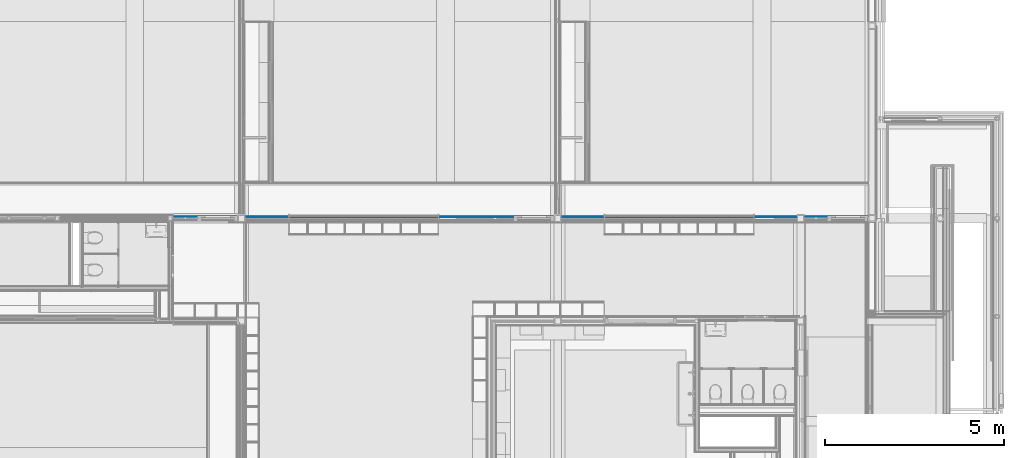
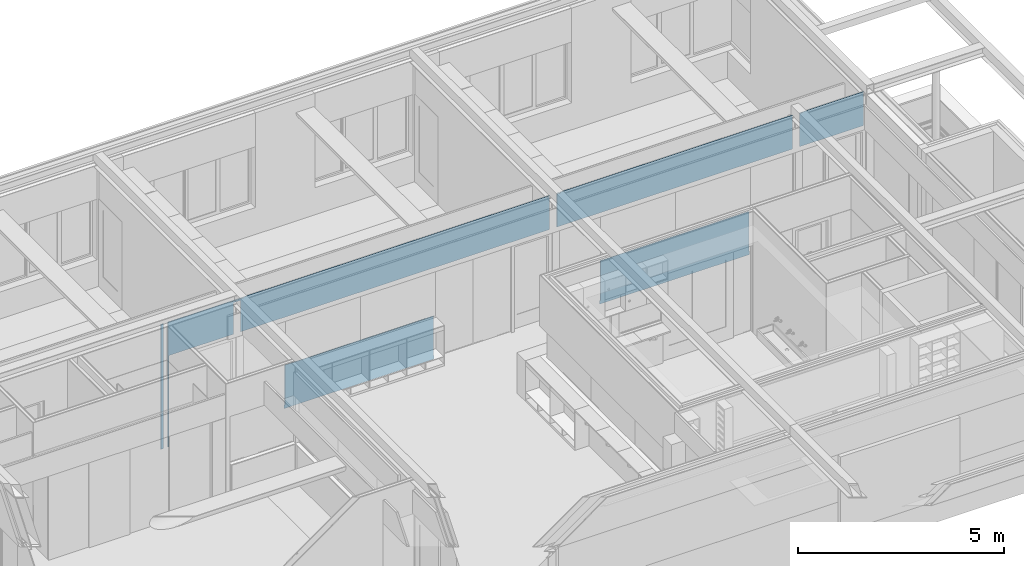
# One storey, part 48 of 137: 1 building element part, 14 openings, 1 element without a shape of its own.
"""IFC2X3 building model written with IfcOpenShell, lengths in millimetres."""

from ifc_helpers import new_model, entity, si_unit, converted_unit, derived_unit, money_unit, direction, frame, origin_with_axes, place, context, subcontext, project, spatial, faceted_brep, material, type_object, element, aggregate, save


model = new_model("IFC2X3")

# Units and contexts
model_context = context("Model", 3, precision=0.01, world=origin_with_axes(), true_north=direction((0.0, 1.0)))
body_context = subcontext(model_context, "Body", "Model", "MODEL_VIEW")
ifc_project = project(units=[si_unit("LENGTHUNIT", "METRE", prefix="MILLI"), si_unit("AREAUNIT", "SQUARE_METRE"), si_unit("VOLUMEUNIT", "CUBIC_METRE"), converted_unit("PLANEANGLEUNIT", "DEGREE", entity("IfcPlaneAngleMeasure", 0.0174532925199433), si_unit("PLANEANGLEUNIT", "RADIAN"), dimensions=[0, 0, 0, 0, 0, 0, 0]), money_unit("EUR"), converted_unit("TIMEUNIT", "Year", entity("IfcTimeMeasure", 31556926.0), si_unit("TIMEUNIT", "SECOND"), dimensions=[0, 0, 1, 0, 0, 0, 0]), si_unit("MASSUNIT", "GRAM", prefix="KILO"), si_unit("THERMODYNAMICTEMPERATUREUNIT", "DEGREE_CELSIUS"), si_unit("LUMINOUSINTENSITYUNIT", "LUMEN"), si_unit("ENERGYUNIT", "JOULE", prefix="MEGA"), derived_unit("THERMALCONDUCTANCEUNIT", [(si_unit("POWERUNIT", "WATT"), 1), (si_unit("LENGTHUNIT", "METRE"), -1), (si_unit("THERMODYNAMICTEMPERATUREUNIT", "KELVIN"), -1)]), derived_unit("SPECIFICHEATCAPACITYUNIT", [(si_unit("ENERGYUNIT", "JOULE"), 1), (si_unit("MASSUNIT", "GRAM", prefix="KILO"), -1), (si_unit("THERMODYNAMICTEMPERATUREUNIT", "KELVIN"), -1)]), derived_unit("MASSDENSITYUNIT", [(si_unit("MASSUNIT", "GRAM", prefix="KILO"), 1), (si_unit("VOLUMEUNIT", "CUBIC_METRE"), -1)])], contexts=[model_context])

# Site, building, storey
site_placement = place(None, origin_with_axes())
site = spatial("IfcSite", under=ifc_project, at=site_placement, Name="Site", CompositionType="ELEMENT")
building_placement = place(site_placement, origin_with_axes())
building = spatial("IfcBuilding", under=site, at=building_placement, Name="Naam gebouw", CompositionType="ELEMENT")
storey_placement = place(building_placement, frame((0.0, 0.0, 3960.0), z_axis=(0.0, 0.0, 1.0), x_axis=(1.0, 0.0, 0.0)))
storey = spatial("IfcBuildingStorey", under=building, at=storey_placement, Name="1e verdieping", CompositionType="ELEMENT", Elevation=3960.0)

# Proxy, openings, building element part
building_element_proxy_type = type_object("IfcBuildingElementProxyType", Name="22 Metal stud 125 gips 125", PredefinedType="NOTDEFINED")
proxy_placement = place(storey_placement, frame((6940.0, 22324.97621406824, -100.0000000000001), z_axis=(0.0, 0.0, 1.0), x_axis=(1.0, 0.0, 0.0)))
proxy = element("IfcBuildingElementProxy", 1, at=proxy_placement, inside=storey, type_object=building_element_proxy_type, Name="_Wand-x")
opening_1_placement = place(proxy_placement, frame((16859.99903999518, 0.0, 100.0000000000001), z_axis=(0.0, 0.0, 1.0), x_axis=(1.0, 0.0, 0.0)))
element("IfcOpeningElement", 2, at=opening_1_placement, cuts=proxy, Name="_B.01", context=body_context, shape_type="Brep", body=[
    faceted_brep([(599.9999999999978, -12.49999999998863, -100.0000000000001), (599.9999999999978, -12.49999999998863, 2600.0), (599.9999999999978, -63.49999999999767, 2600.0), (599.9999999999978, -63.49999999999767, -100.0000000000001), (599.9999999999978, 63.50000000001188, -100.0000000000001), (599.9999999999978, 63.50000000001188, 2600.0), (-599.9999999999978, -12.49999999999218, 2600.0), (-599.9999999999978, -63.50000000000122, 2600.0), (-599.9999999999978, 63.50000000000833, 2600.0), (-599.9999999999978, -63.50000000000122, -100.0000000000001), (-599.9999999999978, -12.49999999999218, -100.0000000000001), (-599.9999999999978, 63.50000000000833, -100.0000000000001)], [[[0, 1, 2, 3]], [[1, 0, 4, 5]], [[6, 7, 2, 1, 5, 8]], [[7, 9, 3, 2]], [[0, 3, 9, 10, 11, 4]], [[5, 4, 11, 8]], [[6, 10, 9, 7]], [[10, 6, 8, 11]]]),
])
opening_2_placement = place(proxy_placement, frame((11459.99903999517, 0.0, 100.0000000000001), z_axis=(0.0, 0.0, 1.0), x_axis=(1.0, 0.0, 0.0)))
element("IfcOpeningElement", 3, at=opening_2_placement, cuts=proxy, Name="_B.01", context=body_context, shape_type="Brep", body=[
    faceted_brep([(600.0000000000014, -12.49999999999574, -100.0000000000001), (600.0000000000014, -12.49999999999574, 2600.0), (600.0000000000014, -63.50000000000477, 2600.0), (600.0000000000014, -63.50000000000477, -100.0000000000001), (600.0000000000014, 63.50000000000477, -100.0000000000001), (600.0000000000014, 63.50000000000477, 2600.0), (-600.0000000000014, -12.49999999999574, 2600.0), (-600.0000000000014, -63.50000000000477, 2600.0), (-600.0000000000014, 63.50000000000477, 2600.0), (-600.0000000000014, -63.50000000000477, -100.0000000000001), (-600.0000000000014, -12.49999999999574, -100.0000000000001), (-600.0000000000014, 63.50000000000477, -100.0000000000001)], [[[0, 1, 2, 3]], [[1, 0, 4, 5]], [[6, 7, 2, 1, 5, 8]], [[7, 9, 3, 2]], [[0, 3, 9, 10, 11, 4]], [[5, 4, 11, 8]], [[6, 10, 9, 7]], [[10, 6, 8, 11]]]),
])
opening_3_placement = place(proxy_placement, frame((7954.999824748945, 0.0, 100.0000000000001), z_axis=(0.0, 0.0, 1.0), x_axis=(1.0, 0.0, 0.0)))
element("IfcOpeningElement", 4, at=opening_3_placement, cuts=proxy, Name="_B.06", context=body_context, shape_type="Brep", body=[
    faceted_brep([(524.9998247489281, -12.49999999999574, -100.0000000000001), (524.9998247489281, -12.49999999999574, 2600.0), (524.9998247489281, -63.50000000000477, 2600.0), (524.9998247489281, -63.50000000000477, -100.0000000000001), (524.9998247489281, 63.50000000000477, -100.0000000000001), (524.9998247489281, 63.50000000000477, 2600.0), (-524.9998247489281, -12.49999999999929, 2600.0), (-524.9998247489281, -63.50000000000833, 2600.0), (-524.9998247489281, 63.50000000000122, 2600.0), (-524.9998247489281, -63.50000000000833, -100.0000000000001), (-524.9998247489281, -12.49999999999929, -100.0000000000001), (-524.9998247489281, 63.50000000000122, -100.0000000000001)], [[[0, 1, 2, 3]], [[1, 0, 4, 5]], [[6, 7, 2, 1, 5, 8]], [[7, 9, 3, 2]], [[0, 3, 9, 10, 11, 4]], [[5, 4, 11, 8]], [[6, 10, 9, 7]], [[10, 6, 8, 11]]]),
])
opening_4_placement = place(proxy_placement, frame((15209.99903999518, 0.0, 1300.0), z_axis=(0.0, 0.0, 1.0), x_axis=(1.0, 0.0, 0.0)))
element("IfcOpeningElement", 5, at=opening_4_placement, cuts=proxy, Name="_C.01", context=body_context, shape_type="Brep", body=[
    faceted_brep([(1050.000000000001, -12.49999999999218, 0.0), (1050.000000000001, -12.49999999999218, 1400.0), (1050.000000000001, -63.50000000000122, 1400.0), (1050.000000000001, -63.50000000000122, 0.0), (1050.000000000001, 63.50000000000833, 0.0), (1050.000000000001, 63.50000000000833, 1400.0), (-1050.000000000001, -12.49999999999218, 1400.0), (-1050.000000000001, -63.50000000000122, 1400.0), (-1050.000000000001, 63.50000000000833, 1400.0), (-1050.000000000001, -63.50000000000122, 0.0), (-1050.000000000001, -12.49999999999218, 0.0), (-1050.000000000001, 63.50000000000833, 0.0)], [[[0, 1, 2, 3]], [[1, 0, 4, 5]], [[6, 7, 2, 1, 5, 8]], [[7, 9, 3, 2]], [[0, 3, 9, 10, 11, 4]], [[5, 4, 11, 8]], [[6, 10, 9, 7]], [[10, 6, 8, 11]]]),
])
opening_5_placement = place(proxy_placement, frame((2620.000000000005, 0.0, 100.0000000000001), z_axis=(0.0, 0.0, 1.0), x_axis=(1.0, 0.0, 0.0)))
element("IfcOpeningElement", 6, at=opening_5_placement, cuts=proxy, Name="_B.03", context=body_context, shape_type="Brep", body=[
    faceted_brep([(610.0000000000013, -12.49999999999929, -100.0000000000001), (610.0000000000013, -12.49999999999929, 2600.0), (610.0000000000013, -63.50000000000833, 2600.0), (610.0000000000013, -63.50000000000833, -100.0000000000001), (610.0000000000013, 63.50000000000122, -100.0000000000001), (610.0000000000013, 63.50000000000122, 2600.0), (-610.0000000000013, -12.49999999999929, 2600.0), (-610.0000000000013, -63.50000000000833, 2600.0), (-610.0000000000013, 63.50000000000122, 2600.0), (-610.0000000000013, -63.50000000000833, -100.0000000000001), (-610.0000000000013, -12.49999999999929, -100.0000000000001), (-610.0000000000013, 63.50000000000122, -100.0000000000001)], [[[0, 1, 2, 3]], [[1, 0, 4, 5]], [[6, 7, 2, 1, 5, 8]], [[7, 9, 3, 2]], [[0, 3, 9, 10, 11, 4]], [[5, 4, 11, 8]], [[6, 10, 9, 7]], [[10, 6, 8, 11]]]),
])
opening_6_placement = place(proxy_placement, frame((6380.000000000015, 0.0, 1300.0), z_axis=(0.0, 0.0, 1.0), x_axis=(1.0, 0.0, 0.0)))
element("IfcOpeningElement", 7, at=opening_6_placement, cuts=proxy, Name="_C.01", context=body_context, shape_type="Brep", body=[
    faceted_brep([(1050.000000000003, -12.49999999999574, 0.0), (1050.000000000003, -12.49999999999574, 1400.0), (1050.000000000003, -63.50000000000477, 1400.0), (1050.000000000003, -63.50000000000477, 0.0), (1050.000000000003, 63.50000000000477, 0.0), (1050.000000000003, 63.50000000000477, 1400.0), (-1050.000000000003, -12.49999999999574, 1400.0), (-1050.000000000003, -63.50000000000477, 1400.0), (-1050.000000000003, 63.50000000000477, 1400.0), (-1050.000000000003, -63.50000000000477, 0.0), (-1050.000000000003, -12.49999999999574, 0.0), (-1050.000000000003, 63.50000000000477, 0.0)], [[[0, 1, 2, 3]], [[1, 0, 4, 5]], [[6, 7, 2, 1, 5, 8]], [[7, 9, 3, 2]], [[0, 3, 9, 10, 11, 4]], [[5, 4, 11, 8]], [[6, 10, 9, 7]], [[10, 6, 8, 11]]]),
])
opening_7_placement = place(proxy_placement, frame((4279.999712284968, 0.0, 1300.0), z_axis=(0.0, 0.0, 1.0), x_axis=(1.0, 0.0, 0.0)))
element("IfcOpeningElement", 8, at=opening_7_placement, cuts=proxy, Name="_C.01", context=body_context, shape_type="Brep", body=[
    faceted_brep([(1049.999712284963, -12.49999999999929, 0.0), (1049.999712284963, -12.49999999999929, 1400.0), (1049.999712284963, -63.50000000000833, 1400.0), (1049.999712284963, -63.50000000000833, 0.0), (1049.999712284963, 63.50000000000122, 0.0), (1049.999712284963, 63.50000000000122, 1400.0), (-1049.999712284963, -12.49999999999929, 1400.0), (-1049.999712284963, -63.50000000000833, 1400.0), (-1049.999712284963, 63.50000000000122, 1400.0), (-1049.999712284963, -63.50000000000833, 0.0), (-1049.999712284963, -12.49999999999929, 0.0), (-1049.999712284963, 63.50000000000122, 0.0)], [[[0, 1, 2, 3]], [[1, 0, 4, 5]], [[6, 7, 2, 1, 5, 8]], [[7, 9, 3, 2]], [[0, 3, 9, 10, 11, 4]], [[5, 4, 11, 8]], [[6, 10, 9, 7]], [[10, 6, 8, 11]]]),
])
opening_8_placement = place(proxy_placement, frame((9004.999474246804, 0.0, 100.0000000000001), z_axis=(0.0, 0.0, 1.0), x_axis=(1.0, 0.0, 0.0)))
element("IfcOpeningElement", 9, at=opening_8_placement, cuts=proxy, Name="_B.06", context=body_context, shape_type="Brep", body=[
    faceted_brep([(524.9998247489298, -12.49999999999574, -100.0000000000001), (524.9998247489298, -12.49999999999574, 2600.0), (524.9998247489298, -63.50000000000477, 2600.0), (524.9998247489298, -63.50000000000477, -100.0000000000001), (524.9998247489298, 63.50000000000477, -100.0000000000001), (524.9998247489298, 63.50000000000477, 2600.0), (-524.9998247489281, -12.49999999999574, 2600.0), (-524.9998247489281, -63.50000000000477, 2600.0), (-524.9998247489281, 63.50000000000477, 2600.0), (-524.9998247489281, -63.50000000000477, -100.0000000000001), (-524.9998247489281, -12.49999999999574, -100.0000000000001), (-524.9998247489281, 63.50000000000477, -100.0000000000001)], [[[0, 1, 2, 3]], [[1, 0, 4, 5]], [[6, 7, 2, 1, 5, 8]], [[7, 9, 3, 2]], [[0, 3, 9, 10, 11, 4]], [[5, 4, 11, 8]], [[6, 10, 9, 7]], [[10, 6, 8, 11]]]),
])
opening_9_placement = place(proxy_placement, frame((17987.99950490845, 0.0, 100.0000000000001), z_axis=(0.0, 0.0, 1.0), x_axis=(1.0, 0.0, 0.0)))
element("IfcOpeningElement", 10, at=opening_9_placement, cuts=proxy, Name="_B.09", context=body_context, shape_type="Brep", body=[
    faceted_brep([(-328.0004950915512, 12.50000000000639, -100.0000000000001), (-328.0004950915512, 12.50000000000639, 2600.0), (-328.0004950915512, 63.50000000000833, 2600.0), (-328.0004950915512, 63.50000000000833, -100.0000000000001), (-328.0004950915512, -63.50000000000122, -100.0000000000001), (-328.0004950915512, -63.50000000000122, 2600.0), (328.0004950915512, 12.50000000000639, 2600.0), (328.0004950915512, 63.50000000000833, 2600.0), (328.0004950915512, -63.50000000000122, 2600.0), (328.0004950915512, 63.50000000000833, -100.0000000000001), (328.0004950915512, 12.50000000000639, -100.0000000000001), (328.0004950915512, -63.50000000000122, -100.0000000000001)], [[[0, 1, 2, 3]], [[1, 0, 4, 5]], [[6, 7, 2, 1, 5, 8]], [[7, 9, 3, 2]], [[0, 3, 9, 10, 11, 4]], [[5, 4, 11, 8]], [[6, 10, 9, 7]], [[10, 6, 8, 11]]]),
])
opening_10_placement = place(proxy_placement, frame((18881.0, 0.0, 100.0000000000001), z_axis=(0.0, 0.0, 1.0), x_axis=(1.0, 0.0, 0.0)))
element("IfcOpeningElement", 11, at=opening_10_placement, cuts=proxy, Name="_01.01", context=body_context, shape_type="Brep", body=[
    faceted_brep([(-565.0000000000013, -63.50000000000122, 2600.0), (-565.0000000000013, -63.50000000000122, -100.0000000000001), (565.0000000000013, -63.50000000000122, -100.0000000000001), (565.0000000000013, -63.50000000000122, 2600.0), (-565.0000000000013, 63.50000000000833, 2600.0), (-565.0000000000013, 63.50000000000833, -100.0000000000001), (565.0000000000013, 63.50000000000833, -100.0000000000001), (565.0000000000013, 63.50000000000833, 2600.0)], [[[0, 1, 2, 3]], [[4, 5, 1, 0]], [[5, 6, 2, 1]], [[6, 7, 3, 2]], [[7, 4, 0, 3]], [[6, 5, 4, 7]]]),
])
opening_11_placement = place(proxy_placement, frame((339.9999604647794, 0.0, 100.0000000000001), z_axis=(0.0, 0.0, 1.0), x_axis=(1.0, 0.0, 0.0)))
element("IfcOpeningElement", 12, at=opening_11_placement, cuts=proxy, Name="_B.07", context=body_context, shape_type="Brep", body=[
    faceted_brep([(-339.9999604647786, 12.49999999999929, -100.0000000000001), (-339.9999604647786, 12.49999999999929, 2600.0), (-339.9999604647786, 63.50000000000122, 2600.0), (-339.9999604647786, 63.50000000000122, -100.0000000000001), (-339.9999604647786, -63.50000000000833, -100.0000000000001), (-339.9999604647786, -63.50000000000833, 2600.0), (339.9999604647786, 12.49999999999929, 2600.0), (339.9999604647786, 63.50000000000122, 2600.0), (339.9999604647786, -63.50000000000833, 2600.0), (339.9999604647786, 63.50000000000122, -100.0000000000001), (339.9999604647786, 12.49999999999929, -100.0000000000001), (339.9999604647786, -63.50000000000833, -100.0000000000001)], [[[0, 1, 2, 3]], [[1, 0, 4, 5]], [[6, 7, 2, 1, 5, 8]], [[7, 9, 3, 2]], [[0, 3, 9, 10, 11, 4]], [[5, 4, 11, 8]], [[6, 10, 9, 7]], [[10, 6, 8, 11]]]),
])
opening_12_placement = place(proxy_placement, frame((10094.99929899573, 0.0, 100.0000000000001), z_axis=(0.0, 0.0, 1.0), x_axis=(1.0, 0.0, 0.0)))
element("IfcOpeningElement", 13, at=opening_12_placement, cuts=proxy, Name="_01.01", context=body_context, shape_type="Brep", body=[
    faceted_brep([(-565.0000000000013, -63.50000000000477, 2600.0), (-565.0000000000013, -63.50000000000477, -100.0000000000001), (565.0000000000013, -63.50000000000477, -100.0000000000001), (565.0000000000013, -63.50000000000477, 2600.0), (-565.0000000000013, 63.50000000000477, 2600.0), (-565.0000000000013, 63.50000000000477, -100.0000000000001), (565.0000000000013, 63.50000000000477, -100.0000000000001), (565.0000000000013, 63.50000000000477, 2600.0)], [[[0, 1, 2, 3]], [[4, 5, 1, 0]], [[5, 6, 2, 1]], [[6, 7, 3, 2]], [[7, 4, 0, 3]], [[6, 5, 4, 7]]]),
])
opening_13_placement = place(proxy_placement, frame((13109.99903999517, 0.0, 1300.0), z_axis=(0.0, 0.0, 1.0), x_axis=(1.0, 0.0, 0.0)))
element("IfcOpeningElement", 14, at=opening_13_placement, cuts=proxy, Name="_C.01", context=body_context, shape_type="Brep", body=[
    faceted_brep([(1050.000000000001, -12.49999999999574, 0.0), (1050.000000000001, -12.49999999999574, 1400.0), (1050.000000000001, -63.50000000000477, 1400.0), (1050.000000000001, -63.50000000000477, 0.0), (1050.000000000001, 63.50000000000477, 0.0), (1050.000000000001, 63.50000000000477, 1400.0), (-1050.000000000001, -12.49999999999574, 1400.0), (-1050.000000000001, -63.50000000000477, 1400.0), (-1050.000000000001, 63.50000000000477, 1400.0), (-1050.000000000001, -63.50000000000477, 0.0), (-1050.000000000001, -12.49999999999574, 0.0), (-1050.000000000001, 63.50000000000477, 0.0)], [[[0, 1, 2, 3]], [[1, 0, 4, 5]], [[6, 7, 2, 1, 5, 8]], [[7, 9, 3, 2]], [[0, 3, 9, 10, 11, 4]], [[5, 4, 11, 8]], [[6, 10, 9, 7]], [[10, 6, 8, 11]]]),
])
opening_14_placement = place(proxy_placement, frame((1244.999920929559, 0.0, 100.0000000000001), z_axis=(0.0, 0.0, 1.0), x_axis=(1.0, 0.0, 0.0)))
element("IfcOpeningElement", 15, at=opening_14_placement, cuts=proxy, Name="_01.01", context=body_context, shape_type="Brep", body=[
    faceted_brep([(-564.9999999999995, -63.50000000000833, 2600.0), (-564.9999999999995, -63.50000000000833, -100.0000000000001), (564.9999999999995, -63.50000000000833, -100.0000000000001), (564.9999999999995, -63.50000000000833, 2600.0), (-564.9999999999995, 63.50000000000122, 2600.0), (-564.9999999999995, 63.50000000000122, -100.0000000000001), (564.9999999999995, 63.50000000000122, -100.0000000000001), (564.9999999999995, 63.50000000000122, 2600.0)], [[[0, 1, 2, 3]], [[4, 5, 1, 0]], [[5, 6, 2, 1]], [[6, 7, 3, 2]], [[7, 4, 0, 3]], [[6, 5, 4, 7]]]),
])
ifc_material = material(Name="Gipsplaat")
building_element_part_placement = place(proxy_placement, origin_with_axes())
building_element_part = element("IfcBuildingElementPart", 16, at=building_element_part_placement, material=ifc_material, Name="Gipsplaat", context=body_context, shape_type="Brep", body=[
    faceted_brep([(16239.9990399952, 50.00000000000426, 1280.000000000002), (16239.9990399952, 50.00000000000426, 100.0000000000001), (16259.99903999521, 50.00000000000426, 100.0000000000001), (16259.99903999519, 50.00000000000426, 0.0), (12059.99903999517, 50.00000000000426, 0.0), (12059.999016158, 50.00000000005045, 100.0000000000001), (12079.99901615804, 50.00000000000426, 100.0000000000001), (12079.99901616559, 50.00000000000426, 1280.000000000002), (16239.9990399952, 37.50000000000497, 1280.000000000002), (16239.9990399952, 37.50000000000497, 100.0000000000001), (16259.99903999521, 37.50000000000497, 100.0000000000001), (16259.99903999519, 37.50000000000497, 0.0), (12059.99903999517, 37.50000000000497, 0.0), (12059.99899233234, 37.50000000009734, 100.0000000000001), (12079.99899233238, 37.50000000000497, 100.0000000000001), (12079.99899233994, 37.50000000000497, 1280.000000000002)], [[[0, 1, 2, 3, 4, 5, 6, 7]], [[1, 0, 8, 9]], [[10, 2, 1, 9]], [[2, 10, 11, 3]], [[11, 12, 4, 3]], [[4, 12, 13, 5]], [[13, 14, 6, 5]], [[14, 15, 7, 6]], [[8, 0, 7, 15]], [[9, 8, 15, 14, 13, 12, 11, 10]]]),
    faceted_brep([(17459.99903999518, 37.50000000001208, 2700.0), (10859.99903999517, 37.50000000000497, 2700.0), (10859.99903999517, 50.00000000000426, 2700.0), (17459.99903999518, 50.00000000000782, 2700.0), (17459.99903999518, 37.50000000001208, 3685.000029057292), (17359.99903999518, 37.50000000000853, 3685.000029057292), (17359.99903999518, 37.50000000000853, 3695.000029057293), (17458.99903999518, 37.50000000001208, 3695.000029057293), (17458.99903999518, 37.50000000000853, 3700.0), (10860.99942456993, 37.50000000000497, 3700.0), (10860.99942456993, 37.50000000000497, 3695.000029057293), (10959.99942456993, 37.50000000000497, 3695.000029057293), (10959.99942456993, 37.50000000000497, 3675.000029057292), (10859.99942456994, 37.50000000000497, 3675.000029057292), (10859.99942456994, 50.00000000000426, 3675.000029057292), (10959.99942456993, 50.00000000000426, 3675.000029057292), (10959.99942456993, 50.00000000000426, 3695.000029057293), (10860.99942456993, 50.00000000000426, 3695.000029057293), (10860.99942456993, 50.00000000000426, 3700.0), (17458.99903999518, 50.00000000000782, 3700.0), (17458.99903999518, 50.00000000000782, 3695.000029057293), (17359.99903999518, 50.00000000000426, 3695.000029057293), (17359.99903999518, 50.00000000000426, 3685.000029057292), (17459.99903999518, 50.00000000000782, 3685.000029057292)], [[[0, 1, 2, 3]], [[1, 0, 4, 5, 6, 7, 8, 9, 10, 11, 12, 13]], [[1, 13, 14, 2]], [[3, 2, 14, 15, 16, 17, 18, 19, 20, 21, 22, 23]], [[23, 4, 0, 3]], [[5, 4, 23, 22]], [[6, 5, 22, 21]], [[7, 6, 21, 20]], [[8, 7, 20, 19]], [[18, 9, 8, 19]], [[17, 10, 9, 18]], [[11, 10, 17, 16]], [[12, 11, 16, 15]], [[15, 14, 13, 12]]]),
    faceted_brep([(1809.999920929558, 50.00000000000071, 2700.0), (1810.000000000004, 50.00000000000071, 3630.0), (1810.000000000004, 37.50000000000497, 3630.0), (1809.999920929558, 37.50000000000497, 2700.0), (2010.000000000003, 50.00000000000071, 2700.0), (2010.000000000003, 50.00000000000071, 3630.0), (0.0, 50.00000000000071, 2700.0), (0.0, 50.00000000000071, 0.0), (-25.00000000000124, 50.00000000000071, 0.0), (-25.00000000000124, 50.00000000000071, 3699.999999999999), (1809.006934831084, 50.00000000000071, 3700.0), (1809.006934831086, 50.00000000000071, 3695.000002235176), (1710.006934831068, 50.00000000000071, 3695.000002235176), (1710.006934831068, 50.00000000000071, 3683.000002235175), (2110.006934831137, 50.00000000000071, 3683.000002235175), (2110.006934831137, 50.00000000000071, 3695.000002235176), (2011.006934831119, 50.00000000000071, 3695.000002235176), (2011.006934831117, 50.00000000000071, 3700.0), (10658.99942456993, 50.00000000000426, 3700.0), (10658.99942456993, 50.00000000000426, 3695.000029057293), (10559.99942456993, 50.00000000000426, 3695.000029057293), (10559.99942456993, 50.00000000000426, 3675.000029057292), (10659.99942456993, 50.00000000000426, 3675.000029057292), (10659.99929899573, 50.00000000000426, 2700.0), (2010.000000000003, 37.50000000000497, 3630.0), (-25.00000000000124, 37.50000000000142, 0.0), (0.0, 37.50000000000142, 0.0), (0.0, 37.50000000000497, 2700.0), (2010.000000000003, 37.50000000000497, 2700.0), (10659.99929899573, 37.50000000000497, 2700.0), (10659.99942456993, 37.50000000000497, 3675.000029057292), (10559.99942456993, 37.50000000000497, 3675.000029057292), (10559.99942456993, 37.50000000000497, 3695.000029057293), (10658.99942456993, 37.50000000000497, 3695.000029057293), (10658.99942456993, 37.50000000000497, 3700.0), (2011.006927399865, 37.50000000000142, 3700.0), (2011.006927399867, 37.50000000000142, 3695.000002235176), (2110.006927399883, 37.50000000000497, 3695.000002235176), (2110.006927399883, 37.50000000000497, 3683.000002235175), (1710.006927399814, 37.50000000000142, 3683.000002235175), (1710.006927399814, 37.50000000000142, 3695.000002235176), (1809.006927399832, 37.50000000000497, 3695.000002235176), (1809.006927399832, 37.50000000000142, 3700.0), (-25.00000000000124, 37.50000000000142, 3699.999999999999)], [[[0, 1, 2, 3]], [[4, 5, 1, 0, 6, 7, 8, 9, 10, 11, 12, 13, 14, 15, 16, 17, 18, 19, 20, 21, 22, 23]], [[2, 1, 5, 24]], [[25, 26, 27, 3, 2, 24, 28, 29, 30, 31, 32, 33, 34, 35, 36, 37, 38, 39, 40, 41, 42, 43]], [[3, 27, 6, 0]], [[5, 4, 28, 24]], [[26, 7, 6, 27]], [[8, 7, 26, 25]], [[9, 8, 25, 43]], [[43, 42, 10, 9]], [[11, 10, 42, 41]], [[12, 11, 41, 40]], [[13, 12, 40, 39]], [[14, 13, 39, 38]], [[15, 14, 38, 37]], [[16, 15, 37, 36]], [[35, 17, 16, 36]], [[17, 35, 34, 18]], [[19, 18, 34, 33]], [[20, 19, 33, 32]], [[21, 20, 32, 31]], [[22, 21, 31, 30]], [[22, 30, 29, 23]], [[28, 4, 23, 29]]]),
    faceted_brep([(3229.999976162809, 50.00000000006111, 100.0000000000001), (3249.999976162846, 50.00000000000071, 100.0000000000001), (3249.9999761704, 50.00000000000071, 1280.000000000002), (7410.000000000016, 50.00000000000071, 1280.000000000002), (7410.000000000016, 50.00000000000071, 100.0000000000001), (7430.000000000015, 50.00000000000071, 100.0000000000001), (7430.000000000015, 50.00000000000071, 0.0), (3230.000000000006, 50.00000000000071, 0.0), (3229.999952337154, 37.500000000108, 100.0000000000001), (3249.999952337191, 37.50000000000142, 100.0000000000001), (3249.999952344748, 37.50000000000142, 1280.000000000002), (7410.000000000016, 37.50000000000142, 1280.000000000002), (7410.000000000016, 37.50000000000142, 100.0000000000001), (7430.000000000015, 37.50000000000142, 100.0000000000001), (7430.000000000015, 37.50000000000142, 0.0), (3230.000000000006, 37.50000000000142, 0.0)], [[[0, 1, 2, 3, 4, 5, 6, 7]], [[1, 0, 8, 9]], [[10, 2, 1, 9]], [[2, 10, 11, 3]], [[4, 3, 11, 12]], [[4, 12, 13, 5]], [[14, 6, 5, 13]], [[14, 15, 7, 6]], [[8, 0, 7, 15]], [[9, 8, 15, 14, 13, 12, 11, 10]]]),
    faceted_brep([(2005.006934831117, 50.00000000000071, 3700.0), (1815.006934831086, 50.00000000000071, 3700.0), (1815.006927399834, 37.50000000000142, 3700.0), (2005.006927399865, 37.50000000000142, 3700.0), (2005.006934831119, 50.00000000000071, 3695.000002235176), (1815.006934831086, 50.00000000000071, 3695.000002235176), (1815.006927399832, 37.50000000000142, 3695.000002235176), (2005.006927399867, 37.50000000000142, 3695.000002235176)], [[[0, 1, 2, 3]], [[4, 5, 1, 0]], [[6, 2, 1, 5]], [[6, 7, 3, 2]], [[7, 4, 0, 3]], [[6, 5, 4, 7]]]),
    faceted_brep([(-144.9999999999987, 37.50000000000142, 3699.999999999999), (-144.9999999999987, 50.00000000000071, 3699.999999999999), (-225.0000000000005, 50.00000000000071, 3700.0), (-225.0000000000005, 37.50000000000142, 3700.0), (-144.9999999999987, 50.00000000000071, 0.0), (-144.9999999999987, 37.50000000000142, 0.0), (-225.0000000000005, 50.00000000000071, 0.0), (-225.0000000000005, 37.50000000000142, 0.0)], [[[0, 1, 2, 3]], [[4, 1, 0, 5]], [[1, 4, 6, 2]], [[6, 7, 3, 2]], [[5, 0, 3, 7]], [[4, 5, 7, 6]]]),
    faceted_brep([(19446.0, 37.50000000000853, 2700.0), (19446.0, 50.00000000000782, 2700.0), (19446.0, 50.00000000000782, 3683.0), (19446.0, 37.50000000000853, 3683.0), (18316.0, 50.00000000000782, 2700.0), (18316.0, 37.50000000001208, 2700.0), (17659.9990098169, 37.50000000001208, 2700.0), (17659.9990098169, 50.00000000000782, 2700.0), (17659.99903999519, 50.00000000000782, 3685.000029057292), (17759.99903999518, 50.00000000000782, 3685.000029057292), (17759.99903999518, 50.00000000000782, 3695.000029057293), (17660.99903999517, 50.00000000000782, 3695.000029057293), (17660.99903663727, 50.00000000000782, 3700.0), (19446.0, 50.00000000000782, 3700.0), (19446.0, 50.00000000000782, 3695.000000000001), (19360.99999552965, 50.00000000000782, 3695.000000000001), (19360.99999552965, 50.00000000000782, 3683.0), (19360.99999552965, 37.50000000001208, 3683.0), (19360.99999552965, 37.50000000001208, 3695.000000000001), (19446.0, 37.50000000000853, 3695.000000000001), (19446.0, 37.50000000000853, 3700.0), (17660.99903663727, 37.50000000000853, 3700.0), (17660.99903999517, 37.50000000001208, 3695.000029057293), (17759.99903999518, 37.50000000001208, 3695.000029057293), (17759.99903999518, 37.50000000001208, 3685.000029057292), (17659.99903999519, 37.50000000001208, 3685.000029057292)], [[[0, 1, 2, 3]], [[4, 1, 0, 5, 6, 7]], [[1, 4, 7, 8, 9, 10, 11, 12, 13, 14, 15, 16, 2]], [[2, 16, 17, 3]], [[5, 0, 3, 17, 18, 19, 20, 21, 22, 23, 24, 25, 6]], [[6, 25, 8, 7]], [[24, 9, 8, 25]], [[9, 24, 23, 10]], [[10, 23, 22, 11]], [[12, 11, 22, 21]], [[21, 20, 13, 12]], [[14, 13, 20, 19]], [[14, 19, 18, 15]], [[15, 18, 17, 16]]]),
])
aggregate(proxy, [building_element_part])

save(model, "model.ifc")
